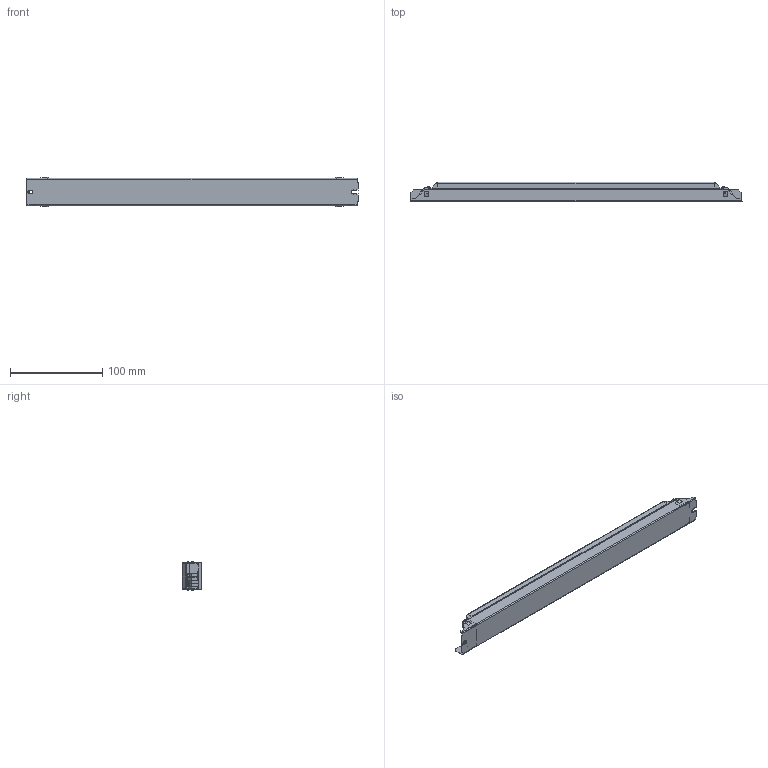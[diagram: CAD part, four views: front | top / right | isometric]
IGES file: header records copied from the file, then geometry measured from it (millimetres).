
Start section: SolidWorks IGES file using analytic representation for surfaces
Global section: file name: D:\ECTR_TEMP\OLQ-batchEngine\queue\temp\4194000swm000.igs; native system: SolidWorks 2017; preprocessor: SolidWorks 2017; author: SYSTEM; date: 200225.063242; units: millimetre
Bounding box: 359 x 21 x 31.39 mm (x, y, z)
Surface area: 40544.6 mm2 (no closed solid volume)
Topology: 0 solids, 0 shells, 762 faces, 5973 edges, 5973 vertices
Faces by surface type: bspline 514, revolution 248
